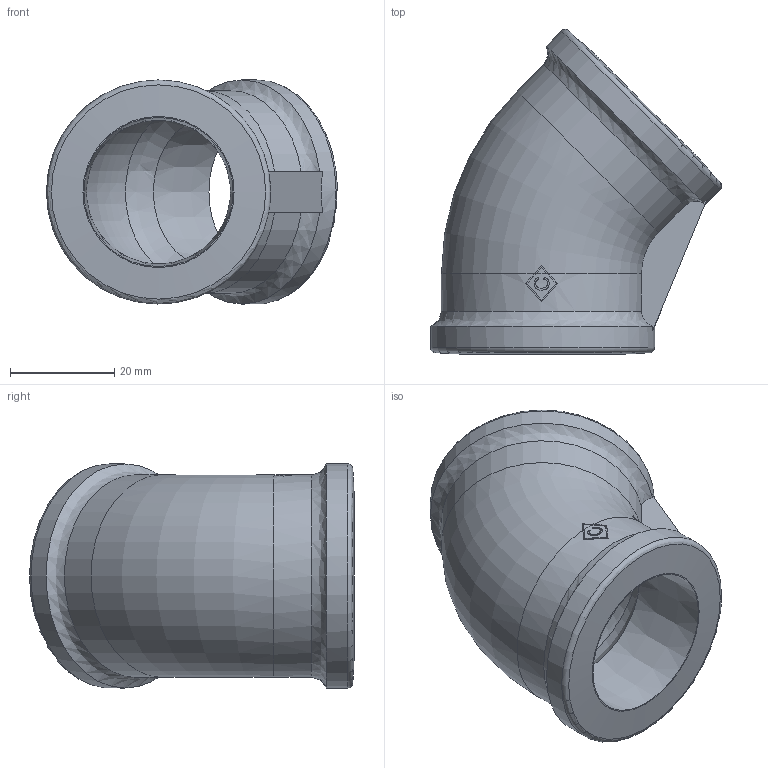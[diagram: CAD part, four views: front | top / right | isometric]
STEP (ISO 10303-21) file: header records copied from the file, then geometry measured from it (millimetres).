
FILE_DESCRIPTION((''),'2;1');
FILE_NAME('P:\Fastrack\53909_CRANE\Crane\Fig.155 45deg Elbow\New 1.00 inch\155-1.00x45.stp','2009-09-16T10:41:00',('btaylor'),(''),'Autodesk Inventor 2008','Autodesk Inventor 2008','');
FILE_SCHEMA(('AUTOMOTIVE_DESIGN { 1 0 10303 214 1 1 1 1 }'));
Length unit declared in the file: millimetre
Products named in the file (1): 155-1.00x45
Bounding box: 55.85 x 62.34 x 43 mm (x, y, z)
Volume: 30171.2 mm3; surface area: 14010.6 mm2
Topology: 1 solids, 1 shells, 44 faces, 136 edges, 95 vertices
Faces by surface type: plane 15, bspline 12, cylinder 7, torus 6, cone 4
Full cylindrical faces by diameter (mm): 43 x2
Entity records: 3064 total; most frequent: CARTESIAN_POINT 1911, ORIENTED_EDGE 250, DIRECTION 204, EDGE_CURVE 125, VERTEX_POINT 93, AXIS2_PLACEMENT_3D 88, EDGE_LOOP 56, FACE_OUTER_BOUND 44
